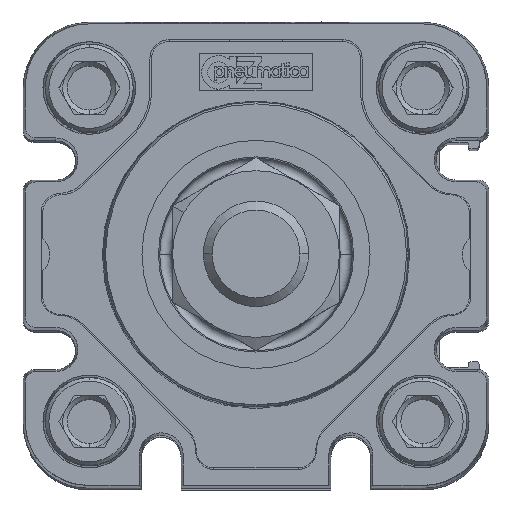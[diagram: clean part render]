
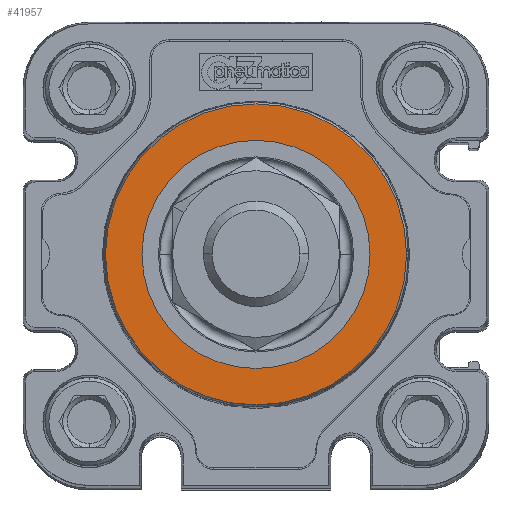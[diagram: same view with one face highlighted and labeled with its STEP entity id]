
A CAD part, top view. The second image highlights one B-rep face of the part: STEP entity #41957.
In plain terms, the highlighted planar face has unit normal (0, 0, 1) as drawn and (0, 0, -1) by its records, which use the part's own axes.
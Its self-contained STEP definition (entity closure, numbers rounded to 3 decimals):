
#642 = DIRECTION ( 'NONE',  ( 1., 0., 0. ) ) ;
#818 = CARTESIAN_POINT ( 'NONE',  ( 0., 0., -49.3 ) ) ;
#2388 = CARTESIAN_POINT ( 'NONE',  ( 13., 0., -49.3 ) ) ;
#3280 = EDGE_CURVE ( 'NONE', #56352, #51505, #56966, .T. ) ;
#5971 = DIRECTION ( 'NONE',  ( 0., 0., 1. ) ) ;
#9842 = CARTESIAN_POINT ( 'NONE',  ( 0., 0., -49.3 ) ) ;
#10949 = EDGE_CURVE ( 'NONE', #21143, #28931, #24313, .T. ) ;
#11607 = ORIENTED_EDGE ( 'NONE', *, *, #13788, .T. ) ;
#13788 = EDGE_CURVE ( 'NONE', #51505, #56352, #18345, .T. ) ;
#13966 = AXIS2_PLACEMENT_3D ( 'NONE', #818, #58861, #15427 ) ;
#15427 = DIRECTION ( 'NONE',  ( -1., 0., 0. ) ) ;
#15688 = ORIENTED_EDGE ( 'NONE', *, *, #10949, .T. ) ;
#17589 = EDGE_CURVE ( 'NONE', #28931, #21143, #19524, .T. ) ;
#18345 = CIRCLE ( 'NONE', #34168, 13. ) ;
#18423 = AXIS2_PLACEMENT_3D ( 'NONE', #9842, #43771, #48569 ) ;
#19524 = CIRCLE ( 'NONE', #29964, 17.154 ) ;
#20710 = FACE_OUTER_BOUND ( 'NONE', #30126, .T. ) ;
#21143 = VERTEX_POINT ( 'NONE', #40073 ) ;
#24313 = CIRCLE ( 'NONE', #18423, 17.154 ) ;
#25023 = PLANE ( 'NONE',  #13966 ) ;
#26976 = DIRECTION ( 'NONE',  ( 0., 0., 1. ) ) ;
#27185 = ORIENTED_EDGE ( 'NONE', *, *, #3280, .T. ) ;
#28474 = CARTESIAN_POINT ( 'NONE',  ( 17.154, 0., -49.3 ) ) ;
#28931 = VERTEX_POINT ( 'NONE', #28474 ) ;
#29964 = AXIS2_PLACEMENT_3D ( 'NONE', #54934, #45272, #55143 ) ;
#30126 = EDGE_LOOP ( 'NONE', ( #62262, #15688 ) ) ;
#34168 = AXIS2_PLACEMENT_3D ( 'NONE', #34419, #5971, #642 ) ;
#34419 = CARTESIAN_POINT ( 'NONE',  ( 0., 0., -49.3 ) ) ;
#36753 = CARTESIAN_POINT ( 'NONE',  ( 0., 0., -49.3 ) ) ;
#37093 = CARTESIAN_POINT ( 'NONE',  ( -13., 0., -49.3 ) ) ;
#40073 = CARTESIAN_POINT ( 'NONE',  ( -17.154, 0., -49.3 ) ) ;
#41957 = ADVANCED_FACE ( 'NONE', ( #20710, #54076 ), #25023, .T. ) ;
#43771 = DIRECTION ( 'NONE',  ( 0., 0., -1. ) ) ;
#45090 = EDGE_LOOP ( 'NONE', ( #27185, #11607 ) ) ;
#45272 = DIRECTION ( 'NONE',  ( 0., 0., -1. ) ) ;
#48569 = DIRECTION ( 'NONE',  ( -1., 0., 0. ) ) ;
#51505 = VERTEX_POINT ( 'NONE', #37093 ) ;
#54076 = FACE_BOUND ( 'NONE', #45090, .T. ) ;
#54676 = DIRECTION ( 'NONE',  ( 1., 0., 0. ) ) ;
#54934 = CARTESIAN_POINT ( 'NONE',  ( 0., 0., -49.3 ) ) ;
#55143 = DIRECTION ( 'NONE',  ( -1., 0., 0. ) ) ;
#56352 = VERTEX_POINT ( 'NONE', #2388 ) ;
#56966 = CIRCLE ( 'NONE', #59071, 13. ) ;
#58861 = DIRECTION ( 'NONE',  ( 0., 0., -1. ) ) ;
#59071 = AXIS2_PLACEMENT_3D ( 'NONE', #36753, #26976, #54676 ) ;
#62262 = ORIENTED_EDGE ( 'NONE', *, *, #17589, .T. ) ;
